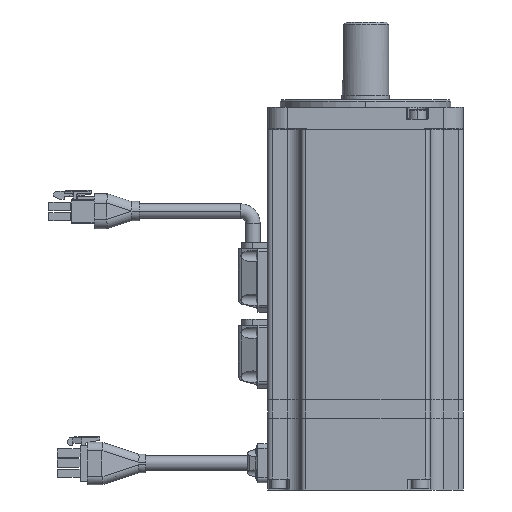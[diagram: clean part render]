
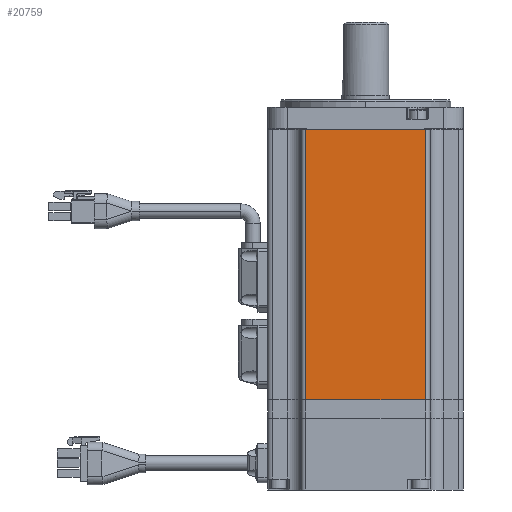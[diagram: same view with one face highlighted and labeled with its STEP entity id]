
A CAD part, left-side view. The second image highlights one B-rep face of the part: STEP entity #20759.
In plain terms, the highlighted planar face has unit normal (-1, 0, 0).
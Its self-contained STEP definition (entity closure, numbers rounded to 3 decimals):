
#4916 = AXIS2_PLACEMENT_3D ( 'NONE', #9733, #9741, #9742 ) ;
#7635 = FACE_OUTER_BOUND ( 'NONE', #30299, .T. ) ;
#7792 = LINE ( 'NONE', #10101, #7796 ) ;
#7796 = VECTOR ( 'NONE', #10098, 1000. ) ;
#7832 = LINE ( 'NONE', #10165, #7834 ) ;
#7834 = VECTOR ( 'NONE', #10166, 1000. ) ;
#7868 = LINE ( 'NONE', #10225, #7870 ) ;
#7869 = LINE ( 'NONE', #10233, #7872 ) ;
#7870 = VECTOR ( 'NONE', #10226, 1000. ) ;
#7872 = VECTOR ( 'NONE', #10234, 1000. ) ;
#9733 = CARTESIAN_POINT ( 'NONE',  ( -40.1, 40.1, 111. ) ) ;
#9739 = PLANE ( 'NONE',  #4916 ) ;
#9741 = DIRECTION ( 'NONE',  ( 1., 0., 0. ) ) ;
#9742 = DIRECTION ( 'NONE',  ( 0., 1., 0. ) ) ;
#10098 = DIRECTION ( 'NONE',  ( 0., -1., 0. ) ) ;
#10101 = CARTESIAN_POINT ( 'NONE',  ( -40.1, 40.1, 111. ) ) ;
#10165 = CARTESIAN_POINT ( 'NONE',  ( -40.1, 40.1, 0. ) ) ;
#10166 = DIRECTION ( 'NONE',  ( 0., -1., 0. ) ) ;
#10225 = CARTESIAN_POINT ( 'NONE',  ( -40.1, 24.5, 111. ) ) ;
#10226 = DIRECTION ( 'NONE',  ( 0., 0., -1. ) ) ;
#10233 = CARTESIAN_POINT ( 'NONE',  ( -40.1, -24.5, 111. ) ) ;
#10234 = DIRECTION ( 'NONE',  ( 0., 0., 1. ) ) ;
#20759 = ADVANCED_FACE ( 'NONE', ( #7635 ), #9739, .F. ) ;
#29700 = ORIENTED_EDGE ( 'NONE', *, *, #30514, .F. ) ;
#29701 = ORIENTED_EDGE ( 'NONE', *, *, #30565, .T. ) ;
#29702 = ORIENTED_EDGE ( 'NONE', *, *, #30541, .T. ) ;
#29703 = ORIENTED_EDGE ( 'NONE', *, *, #30566, .T. ) ;
#30299 = EDGE_LOOP ( 'NONE', ( #29700, #29701, #29702, #29703 ) ) ;
#30514 = EDGE_CURVE ( 'NONE', #44875, #44872, #7792, .T. ) ;
#30541 = EDGE_CURVE ( 'NONE', #44890, #44886, #7832, .T. ) ;
#30565 = EDGE_CURVE ( 'NONE', #44875, #44890, #7868, .T. ) ;
#30566 = EDGE_CURVE ( 'NONE', #44886, #44872, #7869, .T. ) ;
#33387 = CARTESIAN_POINT ( 'NONE',  ( -40.1, -24.5, 111. ) ) ;
#33390 = CARTESIAN_POINT ( 'NONE',  ( -40.1, 24.5, 111. ) ) ;
#33400 = CARTESIAN_POINT ( 'NONE',  ( -40.1, -24.5, 0. ) ) ;
#33404 = CARTESIAN_POINT ( 'NONE',  ( -40.1, 24.5, 0. ) ) ;
#44872 = VERTEX_POINT ( 'NONE', #33387 ) ;
#44875 = VERTEX_POINT ( 'NONE', #33390 ) ;
#44886 = VERTEX_POINT ( 'NONE', #33400 ) ;
#44890 = VERTEX_POINT ( 'NONE', #33404 ) ;
